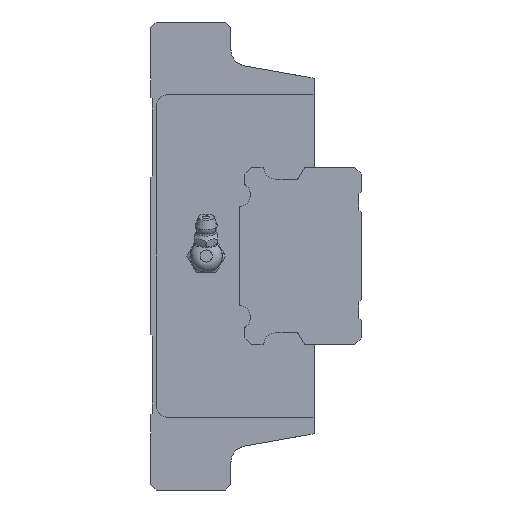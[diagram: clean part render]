
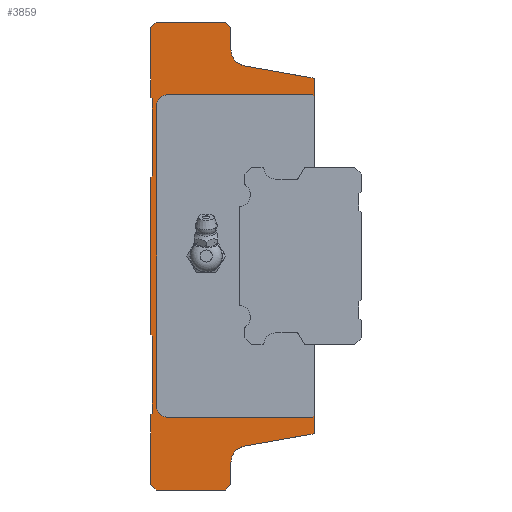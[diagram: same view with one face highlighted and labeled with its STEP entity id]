
A CAD part, left-side view. The second image highlights one B-rep face of the part: STEP entity #3859.
In plain terms, the highlighted planar face has unit normal (-1, 0, 0).
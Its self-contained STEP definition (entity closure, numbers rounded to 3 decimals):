
#180=CIRCLE('',#4152,4.);
#183=CIRCLE('',#4163,5.);
#195=CIRCLE('',#4181,5.);
#196=CIRCLE('',#4184,4.);
#237=CIRCLE('',#4252,3.);
#238=CIRCLE('',#4253,3.);
#989=ORIENTED_EDGE('',*,*,#1830,.F.);
#990=ORIENTED_EDGE('',*,*,#1672,.F.);
#991=ORIENTED_EDGE('',*,*,#1668,.F.);
#992=ORIENTED_EDGE('',*,*,#1776,.F.);
#993=ORIENTED_EDGE('',*,*,#1665,.T.);
#994=ORIENTED_EDGE('',*,*,#1604,.F.);
#995=ORIENTED_EDGE('',*,*,#1601,.F.);
#996=ORIENTED_EDGE('',*,*,#1767,.F.);
#997=ORIENTED_EDGE('',*,*,#1758,.F.);
#998=ORIENTED_EDGE('',*,*,#1821,.F.);
#999=ORIENTED_EDGE('',*,*,#1818,.F.);
#1000=ORIENTED_EDGE('',*,*,#1815,.F.);
#1001=ORIENTED_EDGE('',*,*,#1812,.F.);
#1002=ORIENTED_EDGE('',*,*,#1809,.F.);
#1003=ORIENTED_EDGE('',*,*,#1806,.F.);
#1004=ORIENTED_EDGE('',*,*,#1803,.F.);
#1005=ORIENTED_EDGE('',*,*,#1800,.F.);
#1006=ORIENTED_EDGE('',*,*,#1797,.F.);
#1007=ORIENTED_EDGE('',*,*,#1794,.F.);
#1008=ORIENTED_EDGE('',*,*,#1790,.F.);
#1009=ORIENTED_EDGE('',*,*,#1580,.F.);
#1010=ORIENTED_EDGE('',*,*,#1577,.F.);
#1011=ORIENTED_EDGE('',*,*,#1648,.T.);
#1012=ORIENTED_EDGE('',*,*,#1641,.F.);
#1013=ORIENTED_EDGE('',*,*,#1630,.F.);
#1014=ORIENTED_EDGE('',*,*,#1687,.F.);
#1015=ORIENTED_EDGE('',*,*,#1831,.F.);
#1016=ORIENTED_EDGE('',*,*,#1832,.F.);
#1017=ORIENTED_EDGE('',*,*,#1833,.F.);
#1018=ORIENTED_EDGE('',*,*,#1834,.F.);
#1019=ORIENTED_EDGE('',*,*,#1835,.F.);
#1020=ORIENTED_EDGE('',*,*,#1836,.F.);
#1577=EDGE_CURVE('',#2077,#2075,#2444,.T.);
#1580=EDGE_CURVE('',#2075,#2079,#2447,.T.);
#1601=EDGE_CURVE('',#2099,#2097,#2460,.T.);
#1604=EDGE_CURVE('',#2097,#2101,#2463,.T.);
#1630=EDGE_CURVE('',#2119,#2120,#180,.T.);
#1641=EDGE_CURVE('',#2120,#2130,#2480,.T.);
#1648=EDGE_CURVE('',#2077,#2130,#183,.T.);
#1665=EDGE_CURVE('',#2147,#2101,#195,.T.);
#1668=EDGE_CURVE('',#2148,#2149,#196,.T.);
#1672=EDGE_CURVE('',#2149,#2152,#2488,.T.);
#1687=EDGE_CURVE('',#2163,#2119,#2501,.T.);
#1758=EDGE_CURVE('',#2230,#2231,#2538,.T.);
#1767=EDGE_CURVE('',#2231,#2099,#2547,.T.);
#1776=EDGE_CURVE('',#2147,#2148,#2556,.T.);
#1790=EDGE_CURVE('',#2079,#2250,#2569,.T.);
#1794=EDGE_CURVE('',#2250,#2252,#2573,.T.);
#1797=EDGE_CURVE('',#2252,#2254,#2576,.T.);
#1800=EDGE_CURVE('',#2254,#2256,#2579,.T.);
#1803=EDGE_CURVE('',#2256,#2258,#2582,.T.);
#1806=EDGE_CURVE('',#2258,#2260,#2585,.T.);
#1809=EDGE_CURVE('',#2260,#2262,#2588,.T.);
#1812=EDGE_CURVE('',#2262,#2264,#2591,.T.);
#1815=EDGE_CURVE('',#2264,#2266,#2594,.T.);
#1818=EDGE_CURVE('',#2266,#2268,#2597,.T.);
#1821=EDGE_CURVE('',#2268,#2230,#2600,.T.);
#1830=EDGE_CURVE('',#2152,#2276,#2607,.T.);
#1831=EDGE_CURVE('',#2277,#2163,#2608,.T.);
#1832=EDGE_CURVE('',#2278,#2277,#2609,.T.);
#1833=EDGE_CURVE('',#2279,#2278,#237,.F.);
#1834=EDGE_CURVE('',#2280,#2279,#2610,.T.);
#1835=EDGE_CURVE('',#2281,#2280,#238,.F.);
#1836=EDGE_CURVE('',#2276,#2281,#2611,.T.);
#2075=VERTEX_POINT('',#5851);
#2077=VERTEX_POINT('',#5855);
#2079=VERTEX_POINT('',#5860);
#2097=VERTEX_POINT('',#5914);
#2099=VERTEX_POINT('',#5918);
#2101=VERTEX_POINT('',#5923);
#2119=VERTEX_POINT('',#5990);
#2120=VERTEX_POINT('',#5992);
#2130=VERTEX_POINT('',#6025);
#2147=VERTEX_POINT('',#6086);
#2148=VERTEX_POINT('',#6091);
#2149=VERTEX_POINT('',#6093);
#2152=VERTEX_POINT('',#6102);
#2163=VERTEX_POINT('',#6128);
#2230=VERTEX_POINT('',#6270);
#2231=VERTEX_POINT('',#6271);
#2250=VERTEX_POINT('',#6330);
#2252=VERTEX_POINT('',#6337);
#2254=VERTEX_POINT('',#6343);
#2256=VERTEX_POINT('',#6349);
#2258=VERTEX_POINT('',#6355);
#2260=VERTEX_POINT('',#6361);
#2262=VERTEX_POINT('',#6367);
#2264=VERTEX_POINT('',#6373);
#2266=VERTEX_POINT('',#6379);
#2268=VERTEX_POINT('',#6385);
#2276=VERTEX_POINT('',#6408);
#2277=VERTEX_POINT('',#6410);
#2278=VERTEX_POINT('',#6412);
#2279=VERTEX_POINT('',#6414);
#2280=VERTEX_POINT('',#6416);
#2281=VERTEX_POINT('',#6418);
#2444=LINE('',#5856,#2770);
#2447=LINE('',#5862,#2773);
#2460=LINE('',#5919,#2786);
#2463=LINE('',#5925,#2789);
#2480=LINE('',#6024,#2806);
#2488=LINE('',#6101,#2814);
#2501=LINE('',#6129,#2827);
#2538=LINE('',#6269,#2864);
#2547=LINE('',#6287,#2873);
#2556=LINE('',#6303,#2882);
#2569=LINE('',#6329,#2895);
#2573=LINE('',#6336,#2899);
#2576=LINE('',#6342,#2902);
#2579=LINE('',#6348,#2905);
#2582=LINE('',#6354,#2908);
#2585=LINE('',#6360,#2911);
#2588=LINE('',#6366,#2914);
#2591=LINE('',#6372,#2917);
#2594=LINE('',#6378,#2920);
#2597=LINE('',#6384,#2923);
#2600=LINE('',#6390,#2926);
#2607=LINE('',#6407,#2933);
#2608=LINE('',#6409,#2934);
#2609=LINE('',#6411,#2935);
#2610=LINE('',#6415,#2936);
#2611=LINE('',#6419,#2937);
#2770=VECTOR('',#4742,1000.);
#2773=VECTOR('',#4747,1000.);
#2786=VECTOR('',#4776,1000.);
#2789=VECTOR('',#4781,1000.);
#2806=VECTOR('',#4842,1000.);
#2814=VECTOR('',#4912,1000.);
#2827=VECTOR('',#4931,1000.);
#2864=VECTOR('',#5042,1000.);
#2873=VECTOR('',#5053,1000.);
#2882=VECTOR('',#5068,1000.);
#2895=VECTOR('',#5091,1000.);
#2899=VECTOR('',#5097,1000.);
#2902=VECTOR('',#5102,1000.);
#2905=VECTOR('',#5107,1000.);
#2908=VECTOR('',#5112,1000.);
#2911=VECTOR('',#5117,1000.);
#2914=VECTOR('',#5122,1000.);
#2917=VECTOR('',#5127,1000.);
#2920=VECTOR('',#5132,1000.);
#2923=VECTOR('',#5137,1000.);
#2926=VECTOR('',#5142,1000.);
#2933=VECTOR('',#5157,1000.);
#2934=VECTOR('',#5158,1000.);
#2935=VECTOR('',#5159,1000.);
#2936=VECTOR('',#5162,1000.);
#2937=VECTOR('',#5165,1000.);
#3160=EDGE_LOOP('',(#989,#990,#991,#992,#993,#994,#995,#996,#997,#998,#999,
#1000,#1001,#1002,#1003,#1004,#1005,#1006,#1007,#1008,#1009,#1010,#1011,
#1012,#1013,#1014,#1015,#1016,#1017,#1018,#1019,#1020));
#3467=FACE_BOUND('',#3160,.T.);
#3685=PLANE('',#4251);
#3859=ADVANCED_FACE('',(#3467),#3685,.F.);
#4152=AXIS2_PLACEMENT_3D('',#5991,#4825,#4826);
#4163=AXIS2_PLACEMENT_3D('',#6040,#4855,#4856);
#4181=AXIS2_PLACEMENT_3D('',#6085,#4893,#4894);
#4184=AXIS2_PLACEMENT_3D('',#6092,#4901,#4902);
#4251=AXIS2_PLACEMENT_3D('',#6406,#5155,#5156);
#4252=AXIS2_PLACEMENT_3D('',#6413,#5160,#5161);
#4253=AXIS2_PLACEMENT_3D('',#6417,#5163,#5164);
#4742=DIRECTION('',(0.,0.,-1.));
#4747=DIRECTION('',(0.,0.707,-0.707));
#4776=DIRECTION('',(0.,-0.707,-0.707));
#4781=DIRECTION('',(0.,0.,-1.));
#4825=DIRECTION('',(1.,0.,0.));
#4826=DIRECTION('',(0.,0.,-1.));
#4842=DIRECTION('',(0.,0.984,-0.176));
#4855=DIRECTION('',(1.,0.,0.));
#4856=DIRECTION('',(0.,0.,-1.));
#4893=DIRECTION('',(1.,0.,0.));
#4894=DIRECTION('',(0.,0.,-1.));
#4901=DIRECTION('',(1.,0.,0.));
#4902=DIRECTION('',(0.,0.,-1.));
#4912=DIRECTION('',(0.,0.,-1.));
#4931=DIRECTION('',(0.,0.,-1.));
#5042=DIRECTION('',(0.,-0.707,0.707));
#5053=DIRECTION('',(0.,-1.,0.));
#5068=DIRECTION('',(0.,-0.984,-0.176));
#5091=DIRECTION('',(0.,1.,0.));
#5097=DIRECTION('',(0.,0.707,0.707));
#5102=DIRECTION('',(0.,0.,1.));
#5107=DIRECTION('',(0.,-0.707,0.707));
#5112=DIRECTION('',(0.,0.,1.));
#5117=DIRECTION('',(0.,0.707,0.707));
#5122=DIRECTION('',(0.,0.,1.));
#5127=DIRECTION('',(0.,-0.707,0.707));
#5132=DIRECTION('',(0.,0.,1.));
#5137=DIRECTION('',(0.,0.707,0.707));
#5142=DIRECTION('',(0.,0.,1.));
#5155=DIRECTION('',(1.,0.,0.));
#5156=DIRECTION('',(0.,0.,-1.));
#5157=DIRECTION('',(0.,0.707,0.707));
#5158=DIRECTION('',(0.,-0.707,0.707));
#5159=DIRECTION('',(0.,-1.,0.));
#5160=DIRECTION('',(1.,0.,0.));
#5161=DIRECTION('',(0.,0.,-1.));
#5162=DIRECTION('',(0.,0.,-1.));
#5163=DIRECTION('',(1.,0.,0.));
#5164=DIRECTION('',(0.,0.,-1.));
#5165=DIRECTION('',(0.,1.,0.));
#5851=CARTESIAN_POINT('',(-61.8,25.,-68.5));
#5855=CARTESIAN_POINT('',(-61.8,25.,-61.8));
#5856=CARTESIAN_POINT('',(-61.8,25.,-61.8));
#5860=CARTESIAN_POINT('',(-61.8,26.5,-70.));
#5862=CARTESIAN_POINT('',(-61.8,25.,-68.5));
#5914=CARTESIAN_POINT('',(-61.8,25.,68.5));
#5918=CARTESIAN_POINT('',(-61.8,26.5,70.));
#5919=CARTESIAN_POINT('',(-61.8,26.5,70.));
#5923=CARTESIAN_POINT('',(-61.8,25.,61.8));
#5925=CARTESIAN_POINT('',(-61.8,25.,68.5));
#5990=CARTESIAN_POINT('',(-61.8,0.,-52.972));
#5991=CARTESIAN_POINT('',(-61.8,1.8,-49.4));
#5992=CARTESIAN_POINT('',(-61.8,1.095,-53.337));
#6024=CARTESIAN_POINT('',(-61.8,1.095,-53.337));
#6025=CARTESIAN_POINT('',(-61.8,20.881,-56.878));
#6040=CARTESIAN_POINT('',(-61.8,20.,-61.8));
#6085=CARTESIAN_POINT('',(-61.8,20.,61.8));
#6086=CARTESIAN_POINT('',(-61.8,20.881,56.878));
#6091=CARTESIAN_POINT('',(-61.8,1.095,53.337));
#6092=CARTESIAN_POINT('',(-61.8,1.8,49.4));
#6093=CARTESIAN_POINT('',(-61.8,0.,52.972));
#6101=CARTESIAN_POINT('',(-61.8,0.,52.972));
#6102=CARTESIAN_POINT('',(-61.8,0.,47.7));
#6128=CARTESIAN_POINT('',(-61.8,0.,-47.7));
#6129=CARTESIAN_POINT('',(-61.8,0.,52.972));
#6269=CARTESIAN_POINT('',(-61.8,49.,68.4));
#6270=CARTESIAN_POINT('',(-61.8,49.,68.4));
#6271=CARTESIAN_POINT('',(-61.8,47.4,70.));
#6287=CARTESIAN_POINT('',(-61.8,47.4,70.));
#6303=CARTESIAN_POINT('',(-61.8,20.881,56.878));
#6329=CARTESIAN_POINT('',(-61.8,26.5,-70.));
#6330=CARTESIAN_POINT('',(-61.8,47.4,-70.));
#6336=CARTESIAN_POINT('',(-61.8,47.4,-70.));
#6337=CARTESIAN_POINT('',(-61.8,49.,-68.4));
#6342=CARTESIAN_POINT('',(-61.8,49.,-68.4));
#6343=CARTESIAN_POINT('',(-61.8,49.,-47.5));
#6348=CARTESIAN_POINT('',(-61.8,49.,-47.5));
#6349=CARTESIAN_POINT('',(-61.8,48.5,-47.));
#6354=CARTESIAN_POINT('',(-61.8,48.5,-47.));
#6355=CARTESIAN_POINT('',(-61.8,48.5,-24.));
#6360=CARTESIAN_POINT('',(-61.8,48.5,-24.));
#6361=CARTESIAN_POINT('',(-61.8,49.,-23.5));
#6366=CARTESIAN_POINT('',(-61.8,49.,-23.5));
#6367=CARTESIAN_POINT('',(-61.8,49.,23.5));
#6372=CARTESIAN_POINT('',(-61.8,49.,23.5));
#6373=CARTESIAN_POINT('',(-61.8,48.5,24.));
#6378=CARTESIAN_POINT('',(-61.8,48.5,24.));
#6379=CARTESIAN_POINT('',(-61.8,48.5,47.));
#6384=CARTESIAN_POINT('',(-61.8,48.5,47.));
#6385=CARTESIAN_POINT('',(-61.8,49.,47.5));
#6390=CARTESIAN_POINT('',(-61.8,49.,47.5));
#6406=CARTESIAN_POINT('',(-61.8,20.,61.8));
#6407=CARTESIAN_POINT('',(-61.8,17.05,64.75));
#6408=CARTESIAN_POINT('',(-61.8,0.5,48.2));
#6409=CARTESIAN_POINT('',(-61.8,-44.75,-2.95));
#6410=CARTESIAN_POINT('',(-61.8,0.5,-48.2));
#6411=CARTESIAN_POINT('',(-61.8,20.,-48.2));
#6412=CARTESIAN_POINT('',(-61.8,44.2,-48.2));
#6413=CARTESIAN_POINT('',(-61.8,44.2,-45.2));
#6414=CARTESIAN_POINT('',(-61.8,47.2,-45.2));
#6415=CARTESIAN_POINT('',(-61.8,47.2,61.8));
#6416=CARTESIAN_POINT('',(-61.8,47.2,45.2));
#6417=CARTESIAN_POINT('',(-61.8,44.2,45.2));
#6418=CARTESIAN_POINT('',(-61.8,44.2,48.2));
#6419=CARTESIAN_POINT('',(-61.8,20.,48.2));
